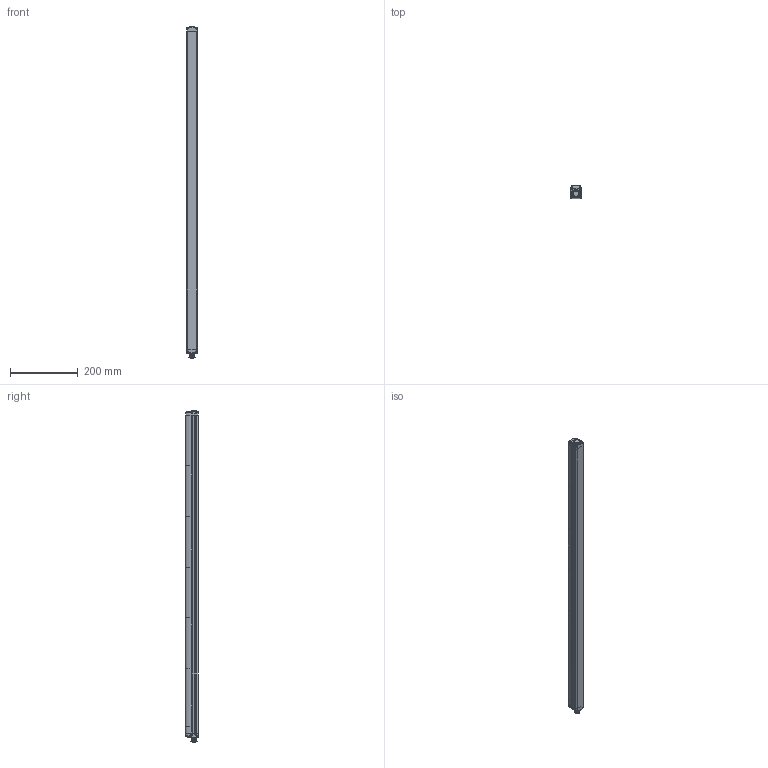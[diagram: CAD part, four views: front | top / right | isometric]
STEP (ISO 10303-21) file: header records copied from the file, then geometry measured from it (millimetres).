
FILE_DESCRIPTION(/* description */ (''),/* implementation_level */ '2;1');
FILE_NAME(/* name */ 'DSD-0174.stp',/* time_stamp */ '2020-07-16T14:24:25+02:00',/* author */ (''),/* organization */ (''),/* preprocessor_version */ 'ST-DEVELOPER v16.7',/* originating_system */ 'SIEMENS PLM Software NX 12.0',/* authorisation */ '');
FILE_SCHEMA (('AUTOMOTIVE_DESIGN { 1 0 10303 214 3 1 1 1 }'));
Products named in the file (1): AP025828_00_1-DSD-0174
Bounding box: 32.3 x 36.9 x 982.84 mm (x, y, z)
Volume: 971413.8 mm3; surface area: 230716 mm2
Topology: 11 solids, 813 shells, 1667 faces, 5280 edges, 4166 vertices
Faces by surface type: cylinder 614, bspline 576, plane 384, sphere 50, cone 35, torus 8
Full cylindrical faces by diameter (mm): 0.8 x16, 1.5 x6, 2 x6, 2.05 x4, 2.5 x12, 2.7 x10, 2.9 x6, 3 x12, 3.4 x6, 3.6 x12, 4.7 x2, 5 x10, 5.3 x2, 7.5 x1, 8 x1, 8.3 x1, 9.3 x1, 9.5 x1, 9.55 x1, 10.5 x1, 11 x2, 12 x12, 13.97 x1, 14.3 x1, 16 x2
Entity records: 87114 total; most frequent: CARTESIAN_POINT 37305, ORIENTED_EDGE 6923, DIRECTION 6132, EDGE_CURVE 4995, VERTEX_POINT 4159, AXIS2_PLACEMENT_3D 2408, EDGE_LOOP 1976, PRESENTATION_STYLE_ASSIGNMENT 1671
